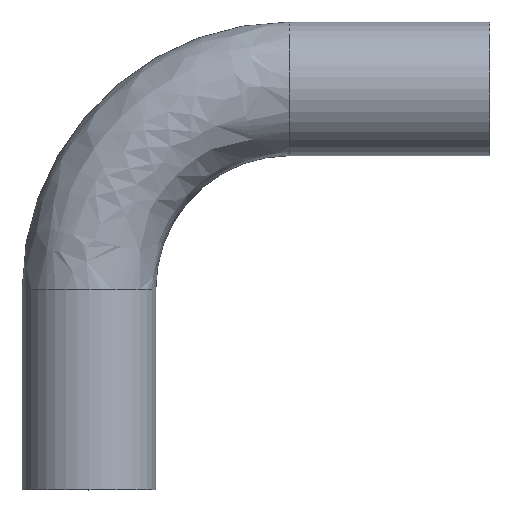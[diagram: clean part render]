
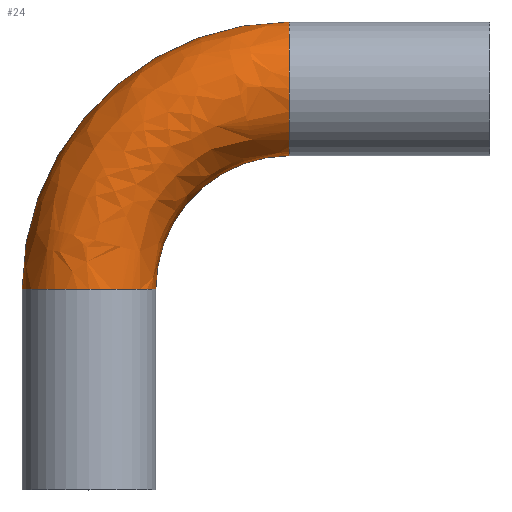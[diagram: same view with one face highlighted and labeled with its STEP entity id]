
A CAD part, top view. The second image highlights one B-rep face of the part: STEP entity #24.
In plain terms, the highlighted free-form (B-spline) face has degree [3, 3] with [4, 4] control points.
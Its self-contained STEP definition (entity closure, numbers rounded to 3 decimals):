
#15 = CARTESIAN_POINT ( 'NONE',  ( 38.1, 88.9, 0. ) ) ;
#24 = ADVANCED_FACE ( 'NONE', ( #243 ), #222, .T. ) ;
#40 = ORIENTED_EDGE ( 'NONE', *, *, #170, .T. ) ;
#66 = EDGE_CURVE ( 'NONE', #157, #264, #206, .T. ) ;
#67 = CARTESIAN_POINT ( 'NONE',  ( -12.7, 38.1, 25.4 ) ) ;
#81 = DIRECTION ( 'NONE',  ( 0., 0., -1. ) ) ;
#82 = EDGE_CURVE ( 'NONE', #405, #347, #399, .T. ) ;
#84 = CARTESIAN_POINT ( 'NONE',  ( 38.1, 38.1, 0. ) ) ;
#96 = CARTESIAN_POINT ( 'NONE',  ( 12.7, 38.1, 0. ) ) ;
#102 = CARTESIAN_POINT ( 'NONE',  ( 38.1, 38.1, 0. ) ) ;
#123 = ORIENTED_EDGE ( 'NONE', *, *, #66, .F. ) ;
#124 = CIRCLE ( 'NONE', #214, 12.7 ) ;
#131 = ORIENTED_EDGE ( 'NONE', *, *, #330, .T. ) ;
#141 = CARTESIAN_POINT ( 'NONE',  ( 12.7, 38.1, 25.4 ) ) ;
#142 = AXIS2_PLACEMENT_3D ( 'NONE', #357, #426, #425 ) ;
#157 = VERTEX_POINT ( 'NONE', #171 ) ;
#170 = EDGE_CURVE ( 'NONE', #157, #405, #181, .T. ) ;
#171 = CARTESIAN_POINT ( 'NONE',  ( -12.7, 38.1, 0. ) ) ;
#181 = CIRCLE ( 'NONE', #142, 12.7 ) ;
#206 = CIRCLE ( 'NONE', #329, 50.8 ) ;
#208 = ORIENTED_EDGE ( 'NONE', *, *, #82, .T. ) ;
#214 = AXIS2_PLACEMENT_3D ( 'NONE', #268, #310, #288 ) ;
#222 =( BOUNDED_SURFACE ( )  B_SPLINE_SURFACE ( 3, 3, ( 
 ( #368, #386, #311, #15 ),
 ( #67, #343, #417, #379 ),
 ( #141, #373, #414, #420 ),
 ( #406, #236, #323, #349 ) ),
 .UNSPECIFIED., .F., .F., .T. ) 
 B_SPLINE_SURFACE_WITH_KNOTS ( ( 4, 4 ),
 ( 4, 4 ),
 ( 0., 1. ),
 ( 0., 1. ),
 .UNSPECIFIED. ) 
 GEOMETRIC_REPRESENTATION_ITEM ( )  RATIONAL_B_SPLINE_SURFACE ( (
 ( 1., 0.805, 0.805, 1.),
 ( 0.333, 0.268, 0.268, 0.333),
 ( 0.333, 0.268, 0.268, 0.333),
 ( 1., 0.805, 0.805, 1.) ) ) 
 REPRESENTATION_ITEM ( '' )  SURFACE ( )  );
#236 = CARTESIAN_POINT ( 'NONE',  ( 12.7, 52.979, 0. ) ) ;
#243 = FACE_OUTER_BOUND ( 'NONE', #451, .T. ) ;
#264 = VERTEX_POINT ( 'NONE', #380 ) ;
#266 = DIRECTION ( 'NONE',  ( -1., 0., 0. ) ) ;
#268 = CARTESIAN_POINT ( 'NONE',  ( 38.1, 76.2, 0. ) ) ;
#288 = DIRECTION ( 'NONE',  ( 0., 1., 0. ) ) ;
#310 = DIRECTION ( 'NONE',  ( -1., 0., 0. ) ) ;
#311 = CARTESIAN_POINT ( 'NONE',  ( 8.342, 88.9, 0. ) ) ;
#323 = CARTESIAN_POINT ( 'NONE',  ( 23.221, 63.5, 0. ) ) ;
#329 = AXIS2_PLACEMENT_3D ( 'NONE', #84, #81, #266 ) ;
#330 = EDGE_CURVE ( 'NONE', #347, #264, #124, .T. ) ;
#343 = CARTESIAN_POINT ( 'NONE',  ( -12.7, 67.858, 25.4 ) ) ;
#347 = VERTEX_POINT ( 'NONE', #443 ) ;
#349 = CARTESIAN_POINT ( 'NONE',  ( 38.1, 63.5, 0. ) ) ;
#357 = CARTESIAN_POINT ( 'NONE',  ( 0., 38.1, 0. ) ) ;
#368 = CARTESIAN_POINT ( 'NONE',  ( -12.7, 38.1, 0. ) ) ;
#373 = CARTESIAN_POINT ( 'NONE',  ( 12.7, 52.979, 25.4 ) ) ;
#379 = CARTESIAN_POINT ( 'NONE',  ( 38.1, 88.9, 25.4 ) ) ;
#380 = CARTESIAN_POINT ( 'NONE',  ( 38.1, 88.9, 0. ) ) ;
#384 = DIRECTION ( 'NONE',  ( 0., 0., -1. ) ) ;
#386 = CARTESIAN_POINT ( 'NONE',  ( -12.7, 67.858, 0. ) ) ;
#399 = CIRCLE ( 'NONE', #456, 25.4 ) ;
#405 = VERTEX_POINT ( 'NONE', #96 ) ;
#406 = CARTESIAN_POINT ( 'NONE',  ( 12.7, 38.1, 0. ) ) ;
#407 = DIRECTION ( 'NONE',  ( -1., 0., 0. ) ) ;
#414 = CARTESIAN_POINT ( 'NONE',  ( 23.221, 63.5, 25.4 ) ) ;
#417 = CARTESIAN_POINT ( 'NONE',  ( 8.342, 88.9, 25.4 ) ) ;
#420 = CARTESIAN_POINT ( 'NONE',  ( 38.1, 63.5, 25.4 ) ) ;
#425 = DIRECTION ( 'NONE',  ( -1., 0., 0. ) ) ;
#426 = DIRECTION ( 'NONE',  ( 0., 1., 0. ) ) ;
#443 = CARTESIAN_POINT ( 'NONE',  ( 38.1, 63.5, 0. ) ) ;
#451 = EDGE_LOOP ( 'NONE', ( #40, #208, #131, #123 ) ) ;
#456 = AXIS2_PLACEMENT_3D ( 'NONE', #102, #384, #407 ) ;
